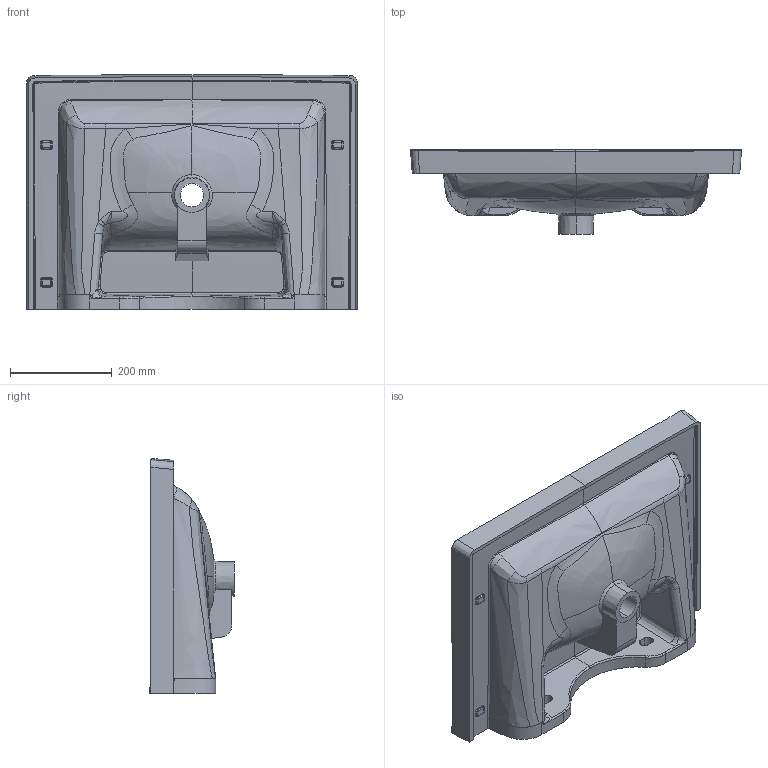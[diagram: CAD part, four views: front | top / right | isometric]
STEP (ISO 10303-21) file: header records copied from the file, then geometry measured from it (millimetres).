
FILE_DESCRIPTION (( 'STEP AP203' ), '1' );
FILE_NAME ('0b065 göllenme.STEP', '2023-02-23T11:42:30', ( '' ), ( '' ), 'SwSTEP 2.0', 'SolidWorks 2021', '' );
FILE_SCHEMA (( 'CONFIG_CONTROL_DESIGN' ));
Products named in the file (1): 0b065 göllenme
Bounding box: 651.68 x 167 x 462.42 mm (x, y, z)
Volume: 11779310.9 mm3; surface area: 939183.7 mm2
Topology: 1 solids, 1 shells, 402 faces, 1035 edges, 629 vertices
Faces by surface type: bspline 354, plane 23, cylinder 19, cone 6
Entity records: 77468 total; most frequent: CARTESIAN_POINT 70608, ORIENTED_EDGE 2052, EDGE_CURVE 1026, B_SPLINE_CURVE_WITH_KNOTS 666, VERTEX_POINT 629, DIRECTION 533, EDGE_LOOP 411, FACE_OUTER_BOUND 402
